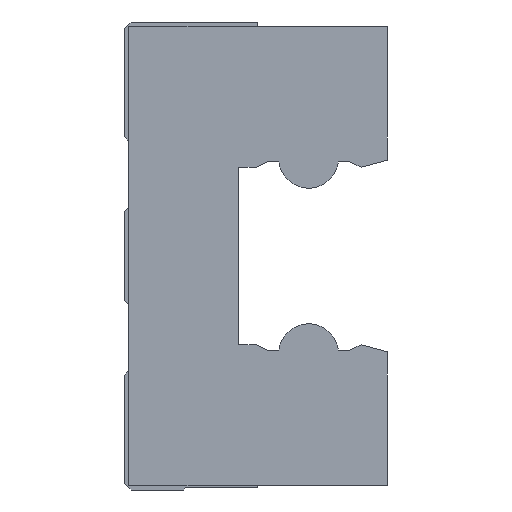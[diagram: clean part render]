
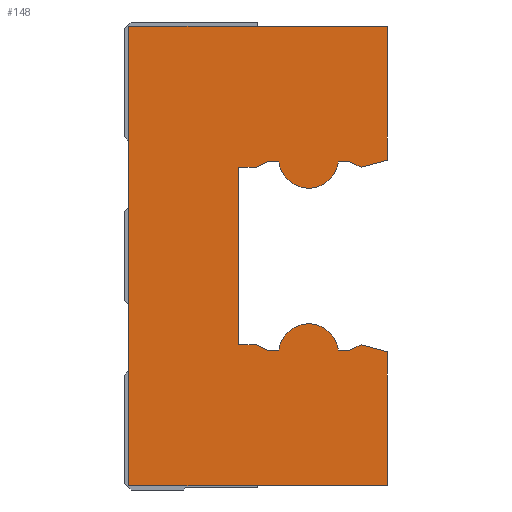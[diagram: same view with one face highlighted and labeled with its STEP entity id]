
A CAD part, left-side view. The second image highlights one B-rep face of the part: STEP entity #148.
In plain terms, the highlighted planar face has unit normal (-1, 0, 0).
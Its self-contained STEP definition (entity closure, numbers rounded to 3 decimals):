
#148 = ADVANCED_FACE( '', ( #300 ), #301, .F. );
#300 = FACE_OUTER_BOUND( '', #452, .T. );
#301 = PLANE( '', #453 );
#452 = EDGE_LOOP( '', ( #1021, #1022, #1023, #1024, #1025, #1026, #1027, #1028, #1029, #1030, #1031, #1032, #1033, #1034, #1035, #1036, #1037, #1038, #1039, #1040 ) );
#453 = AXIS2_PLACEMENT_3D( '', #1041, #1042, #1043 );
#1021 = ORIENTED_EDGE( '', *, *, #1227, .F. );
#1022 = ORIENTED_EDGE( '', *, *, #1174, .F. );
#1023 = ORIENTED_EDGE( '', *, *, #1177, .F. );
#1024 = ORIENTED_EDGE( '', *, *, #1169, .F. );
#1025 = ORIENTED_EDGE( '', *, *, #1180, .F. );
#1026 = ORIENTED_EDGE( '', *, *, #1183, .F. );
#1027 = ORIENTED_EDGE( '', *, *, #1186, .F. );
#1028 = ORIENTED_EDGE( '', *, *, #1189, .F. );
#1029 = ORIENTED_EDGE( '', *, *, #1192, .F. );
#1030 = ORIENTED_EDGE( '', *, *, #1195, .F. );
#1031 = ORIENTED_EDGE( '', *, *, #1198, .F. );
#1032 = ORIENTED_EDGE( '', *, *, #1201, .F. );
#1033 = ORIENTED_EDGE( '', *, *, #1204, .F. );
#1034 = ORIENTED_EDGE( '', *, *, #1207, .F. );
#1035 = ORIENTED_EDGE( '', *, *, #1210, .F. );
#1036 = ORIENTED_EDGE( '', *, *, #1213, .F. );
#1037 = ORIENTED_EDGE( '', *, *, #1216, .F. );
#1038 = ORIENTED_EDGE( '', *, *, #1219, .F. );
#1039 = ORIENTED_EDGE( '', *, *, #1222, .F. );
#1040 = ORIENTED_EDGE( '', *, *, #1225, .F. );
#1041 = CARTESIAN_POINT( '', ( 0., 0., 0. ) );
#1042 = DIRECTION( '', ( 1., 0., 0. ) );
#1043 = DIRECTION( '', ( 0., 0., -1. ) );
#1169 = EDGE_CURVE( '', #1430, #1432, #1433, .T. );
#1174 = EDGE_CURVE( '', #1438, #1440, #1441, .T. );
#1177 = EDGE_CURVE( '', #1432, #1438, #1445, .T. );
#1180 = EDGE_CURVE( '', #1448, #1430, #1450, .T. );
#1183 = EDGE_CURVE( '', #1453, #1448, #1455, .T. );
#1186 = EDGE_CURVE( '', #1458, #1453, #1460, .T. );
#1189 = EDGE_CURVE( '', #1463, #1458, #1465, .T. );
#1192 = EDGE_CURVE( '', #1468, #1463, #1470, .T. );
#1195 = EDGE_CURVE( '', #1473, #1468, #1475, .T. );
#1198 = EDGE_CURVE( '', #1478, #1473, #1480, .T. );
#1201 = EDGE_CURVE( '', #1483, #1478, #1485, .T. );
#1204 = EDGE_CURVE( '', #1488, #1483, #1490, .T. );
#1207 = EDGE_CURVE( '', #1493, #1488, #1495, .T. );
#1210 = EDGE_CURVE( '', #1498, #1493, #1500, .T. );
#1213 = EDGE_CURVE( '', #1503, #1498, #1505, .T. );
#1216 = EDGE_CURVE( '', #1508, #1503, #1510, .T. );
#1219 = EDGE_CURVE( '', #1513, #1508, #1515, .T. );
#1222 = EDGE_CURVE( '', #1518, #1513, #1520, .T. );
#1225 = EDGE_CURVE( '', #1523, #1518, #1525, .T. );
#1227 = EDGE_CURVE( '', #1440, #1523, #1527, .T. );
#1430 = VERTEX_POINT( '', #1830 );
#1432 = VERTEX_POINT( '', #1833 );
#1433 = LINE( '', #1834, #1835 );
#1438 = VERTEX_POINT( '', #1843 );
#1440 = VERTEX_POINT( '', #1846 );
#1441 = LINE( '', #1847, #1848 );
#1445 = LINE( '', #1854, #1855 );
#1448 = VERTEX_POINT( '', #1859 );
#1450 = LINE( '', #1862, #1863 );
#1453 = VERTEX_POINT( '', #1867 );
#1455 = LINE( '', #1870, #1871 );
#1458 = VERTEX_POINT( '', #1875 );
#1460 = LINE( '', #1878, #1879 );
#1463 = VERTEX_POINT( '', #1883 );
#1465 = LINE( '', #1886, #1887 );
#1468 = VERTEX_POINT( '', #1890 );
#1470 = CIRCLE( '', #1893, 2.82 );
#1473 = VERTEX_POINT( '', #1897 );
#1475 = LINE( '', #1900, #1901 );
#1478 = VERTEX_POINT( '', #1905 );
#1480 = LINE( '', #1908, #1909 );
#1483 = VERTEX_POINT( '', #1913 );
#1485 = LINE( '', #1916, #1917 );
#1488 = VERTEX_POINT( '', #1921 );
#1490 = LINE( '', #1924, #1925 );
#1493 = VERTEX_POINT( '', #1929 );
#1495 = LINE( '', #1932, #1933 );
#1498 = VERTEX_POINT( '', #1937 );
#1500 = LINE( '', #1940, #1941 );
#1503 = VERTEX_POINT( '', #1945 );
#1505 = LINE( '', #1948, #1949 );
#1508 = VERTEX_POINT( '', #1952 );
#1510 = CIRCLE( '', #1955, 2.82 );
#1513 = VERTEX_POINT( '', #1959 );
#1515 = LINE( '', #1962, #1963 );
#1518 = VERTEX_POINT( '', #1967 );
#1520 = LINE( '', #1970, #1971 );
#1523 = VERTEX_POINT( '', #1975 );
#1525 = LINE( '', #1978, #1979 );
#1527 = LINE( '', #1982, #1983 );
#1830 = CARTESIAN_POINT( '', ( 0., 0., -21.6 ) );
#1833 = CARTESIAN_POINT( '', ( 0., 24.3, -21.6 ) );
#1834 = CARTESIAN_POINT( '', ( 0., 0., -21.6 ) );
#1835 = VECTOR( '', #2157, 1. );
#1843 = CARTESIAN_POINT( '', ( 0., 24.3, 21.6 ) );
#1846 = CARTESIAN_POINT( '', ( 0., 0., 21.6 ) );
#1847 = CARTESIAN_POINT( '', ( 0., 24.3, 21.6 ) );
#1848 = VECTOR( '', #2162, 1. );
#1854 = CARTESIAN_POINT( '', ( 0., 24.3, -21.6 ) );
#1855 = VECTOR( '', #2165, 1. );
#1859 = CARTESIAN_POINT( '', ( 0., 0., -9.011 ) );
#1862 = CARTESIAN_POINT( '', ( 0., 0., -9.011 ) );
#1863 = VECTOR( '', #2168, 1. );
#1867 = CARTESIAN_POINT( '', ( 0., 2.468, -8.35 ) );
#1870 = CARTESIAN_POINT( '', ( 0., 2.468, -8.35 ) );
#1871 = VECTOR( '', #2171, 1. );
#1875 = CARTESIAN_POINT( '', ( 0., 3.54, -8.85 ) );
#1878 = CARTESIAN_POINT( '', ( 0., 3.54, -8.85 ) );
#1879 = VECTOR( '', #2174, 1. );
#1883 = CARTESIAN_POINT( '', ( 0., 4.602, -8.85 ) );
#1886 = CARTESIAN_POINT( '', ( 0., 4.602, -8.85 ) );
#1887 = VECTOR( '', #2177, 1. );
#1890 = CARTESIAN_POINT( '', ( 0., 10.198, -8.85 ) );
#1893 = AXIS2_PLACEMENT_3D( '', #2182, #2183, #2184 );
#1897 = CARTESIAN_POINT( '', ( 0., 11.238, -8.85 ) );
#1900 = CARTESIAN_POINT( '', ( 0., 11.238, -8.85 ) );
#1901 = VECTOR( '', #2187, 1. );
#1905 = CARTESIAN_POINT( '', ( 0., 12.31, -8.35 ) );
#1908 = CARTESIAN_POINT( '', ( 0., 12.31, -8.35 ) );
#1909 = VECTOR( '', #2190, 1. );
#1913 = CARTESIAN_POINT( '', ( 0., 14., -8.35 ) );
#1916 = CARTESIAN_POINT( '', ( 0., 14., -8.35 ) );
#1917 = VECTOR( '', #2193, 1. );
#1921 = CARTESIAN_POINT( '', ( 0., 14., 8.35 ) );
#1924 = CARTESIAN_POINT( '', ( 0., 14., 8.35 ) );
#1925 = VECTOR( '', #2196, 1. );
#1929 = CARTESIAN_POINT( '', ( 0., 12.31, 8.35 ) );
#1932 = CARTESIAN_POINT( '', ( 0., 12.31, 8.35 ) );
#1933 = VECTOR( '', #2199, 1. );
#1937 = CARTESIAN_POINT( '', ( 0., 11.238, 8.85 ) );
#1940 = CARTESIAN_POINT( '', ( 0., 11.238, 8.85 ) );
#1941 = VECTOR( '', #2202, 1. );
#1945 = CARTESIAN_POINT( '', ( 0., 10.198, 8.85 ) );
#1948 = CARTESIAN_POINT( '', ( 0., 10.198, 8.85 ) );
#1949 = VECTOR( '', #2205, 1. );
#1952 = CARTESIAN_POINT( '', ( 0., 4.602, 8.85 ) );
#1955 = AXIS2_PLACEMENT_3D( '', #2210, #2211, #2212 );
#1959 = CARTESIAN_POINT( '', ( 0., 3.54, 8.85 ) );
#1962 = CARTESIAN_POINT( '', ( 0., 3.54, 8.85 ) );
#1963 = VECTOR( '', #2215, 1. );
#1967 = CARTESIAN_POINT( '', ( 0., 2.468, 8.35 ) );
#1970 = CARTESIAN_POINT( '', ( 0., 2.468, 8.35 ) );
#1971 = VECTOR( '', #2218, 1. );
#1975 = CARTESIAN_POINT( '', ( 0., 0., 9.011 ) );
#1978 = CARTESIAN_POINT( '', ( 0., 0., 9.011 ) );
#1979 = VECTOR( '', #2221, 1. );
#1982 = CARTESIAN_POINT( '', ( 0., 0., 21.6 ) );
#1983 = VECTOR( '', #2223, 1. );
#2157 = DIRECTION( '', ( 0., 1., 0. ) );
#2162 = DIRECTION( '', ( 0., -1., 0. ) );
#2165 = DIRECTION( '', ( 0., 0., 1. ) );
#2168 = DIRECTION( '', ( 0., 0., -1. ) );
#2171 = DIRECTION( '', ( 0., -0.966, -0.259 ) );
#2174 = DIRECTION( '', ( 0., -0.906, 0.423 ) );
#2177 = DIRECTION( '', ( 0., -1., 0. ) );
#2182 = CARTESIAN_POINT( '', ( 0., 7.4, -9.2 ) );
#2183 = DIRECTION( '', ( 1., 0., 0. ) );
#2184 = DIRECTION( '', ( 0., 0.992, 0.124 ) );
#2187 = DIRECTION( '', ( 0., -1., 0. ) );
#2190 = DIRECTION( '', ( 0., -0.906, -0.423 ) );
#2193 = DIRECTION( '', ( 0., -1., 0. ) );
#2196 = DIRECTION( '', ( 0., 0., -1. ) );
#2199 = DIRECTION( '', ( 0., 1., 0. ) );
#2202 = DIRECTION( '', ( 0., 0.906, -0.423 ) );
#2205 = DIRECTION( '', ( 0., 1., 0. ) );
#2210 = CARTESIAN_POINT( '', ( 0., 7.4, 9.2 ) );
#2211 = DIRECTION( '', ( 1., 0., 0. ) );
#2212 = DIRECTION( '', ( 0., -0.992, -0.124 ) );
#2215 = DIRECTION( '', ( 0., 1., 0. ) );
#2218 = DIRECTION( '', ( 0., 0.906, 0.423 ) );
#2221 = DIRECTION( '', ( 0., 0.966, -0.259 ) );
#2223 = DIRECTION( '', ( 0., 0., -1. ) );
